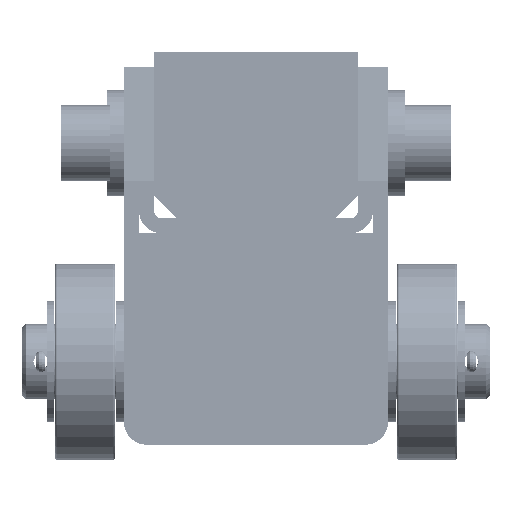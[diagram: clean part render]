
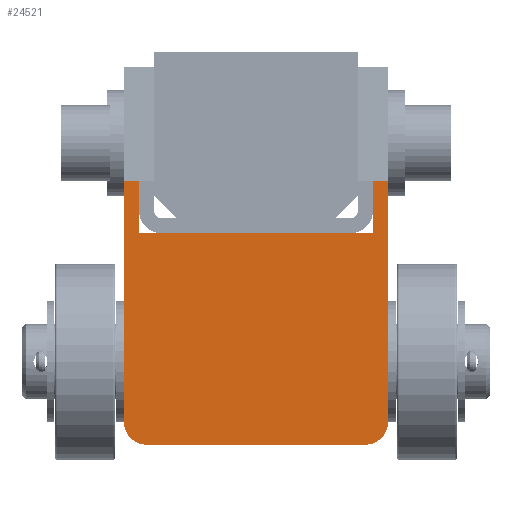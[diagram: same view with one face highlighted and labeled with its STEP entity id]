
A CAD part, front view. The second image highlights one B-rep face of the part: STEP entity #24521.
In plain terms, the highlighted planar face has unit normal (0, -1, 0).
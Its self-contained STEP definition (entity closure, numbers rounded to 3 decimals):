
#4111=FACE_OUTER_BOUND('',#5711,.T.);
#5711=EDGE_LOOP('',(#17862,#17863,#17864,#17865,#17866,#17867,#17868,#17869,
#17870,#17871));
#7481=LINE('',#37859,#8877);
#7485=LINE('',#37868,#8881);
#7490=LINE('',#37877,#8886);
#7495=LINE('',#37886,#8891);
#7509=LINE('',#37917,#8905);
#7517=LINE('',#37940,#8913);
#7518=LINE('',#37942,#8914);
#7522=LINE('',#37953,#8918);
#8877=VECTOR('',#30232,10.);
#8881=VECTOR('',#30238,10.);
#8886=VECTOR('',#30245,10.);
#8891=VECTOR('',#30256,10.);
#8905=VECTOR('',#30280,10.);
#8913=VECTOR('',#30304,10.);
#8914=VECTOR('',#30307,10.);
#8918=VECTOR('',#30321,10.);
#10316=CIRCLE('',#26583,3.);
#10317=CIRCLE('',#26586,3.);
#11566=VERTEX_POINT('',#37855);
#11568=VERTEX_POINT('',#37858);
#11570=VERTEX_POINT('',#37864);
#11572=VERTEX_POINT('',#37867);
#11575=VERTEX_POINT('',#37875);
#11576=VERTEX_POINT('',#37885);
#11588=VERTEX_POINT('',#37915);
#11595=VERTEX_POINT('',#37938);
#11596=VERTEX_POINT('',#37948);
#11597=VERTEX_POINT('',#37952);
#13939=EDGE_CURVE('',#11568,#11566,#7481,.T.);
#13943=EDGE_CURVE('',#11572,#11570,#7485,.T.);
#13948=EDGE_CURVE('',#11575,#11570,#7490,.T.);
#13953=EDGE_CURVE('',#11576,#11568,#7495,.T.);
#13969=EDGE_CURVE('',#11566,#11588,#7509,.T.);
#13981=EDGE_CURVE('',#11588,#11595,#7517,.T.);
#13982=EDGE_CURVE('',#11572,#11595,#7518,.T.);
#13985=EDGE_CURVE('',#11596,#11575,#10316,.T.);
#13987=EDGE_CURVE('',#11596,#11597,#7522,.T.);
#13989=EDGE_CURVE('',#11576,#11597,#10317,.T.);
#17862=ORIENTED_EDGE('',*,*,#13943,.T.);
#17863=ORIENTED_EDGE('',*,*,#13948,.F.);
#17864=ORIENTED_EDGE('',*,*,#13985,.F.);
#17865=ORIENTED_EDGE('',*,*,#13987,.T.);
#17866=ORIENTED_EDGE('',*,*,#13989,.F.);
#17867=ORIENTED_EDGE('',*,*,#13953,.T.);
#17868=ORIENTED_EDGE('',*,*,#13939,.T.);
#17869=ORIENTED_EDGE('',*,*,#13969,.T.);
#17870=ORIENTED_EDGE('',*,*,#13981,.T.);
#17871=ORIENTED_EDGE('',*,*,#13982,.F.);
#23735=PLANE('',#26587);
#24521=ADVANCED_FACE('',(#4111),#23735,.F.);
#26583=AXIS2_PLACEMENT_3D('',#37949,#30316,#30317);
#26586=AXIS2_PLACEMENT_3D('',#37956,#30325,#30326);
#26587=AXIS2_PLACEMENT_3D('',#37957,#30327,#30328);
#30232=DIRECTION('',(-1.,0.,0.));
#30238=DIRECTION('',(-1.,0.,0.));
#30245=DIRECTION('',(0.,0.,1.));
#30256=DIRECTION('',(0.,0.,1.));
#30280=DIRECTION('',(0.,0.,-1.));
#30304=DIRECTION('',(-1.,0.,0.));
#30307=DIRECTION('',(0.,0.,-1.));
#30316=DIRECTION('center_axis',(0.,1.,0.));
#30317=DIRECTION('ref_axis',(0.,0.,-1.));
#30321=DIRECTION('',(1.,0.,0.));
#30325=DIRECTION('center_axis',(0.,1.,0.));
#30326=DIRECTION('ref_axis',(1.,0.,0.));
#30327=DIRECTION('center_axis',(0.,1.,0.));
#30328=DIRECTION('ref_axis',(1.,0.,0.));
#37855=CARTESIAN_POINT('',(15.5,0.,35.));
#37858=CARTESIAN_POINT('',(17.5,0.,35.));
#37859=CARTESIAN_POINT('',(8.75,0.,35.));
#37864=CARTESIAN_POINT('',(-17.5,0.,35.));
#37867=CARTESIAN_POINT('',(-15.5,0.,35.));
#37868=CARTESIAN_POINT('',(8.75,0.,35.));
#37875=CARTESIAN_POINT('',(-17.5,0.,3.));
#37877=CARTESIAN_POINT('',(-17.5,0.,3.));
#37885=CARTESIAN_POINT('',(17.5,0.,3.));
#37886=CARTESIAN_POINT('',(17.5,0.,3.));
#37915=CARTESIAN_POINT('',(15.5,0.,28.));
#37917=CARTESIAN_POINT('',(15.5,0.,50.));
#37938=CARTESIAN_POINT('',(-15.5,0.,28.));
#37940=CARTESIAN_POINT('',(15.5,0.,28.));
#37942=CARTESIAN_POINT('',(-15.5,0.,50.));
#37948=CARTESIAN_POINT('',(-14.5,0.,0.));
#37949=CARTESIAN_POINT('Origin',(-14.5,0.,3.));
#37952=CARTESIAN_POINT('',(14.5,0.,0.));
#37953=CARTESIAN_POINT('',(0.,0.,0.));
#37956=CARTESIAN_POINT('Origin',(14.5,0.,3.));
#37957=CARTESIAN_POINT('Origin',(0.,0.,25.));
